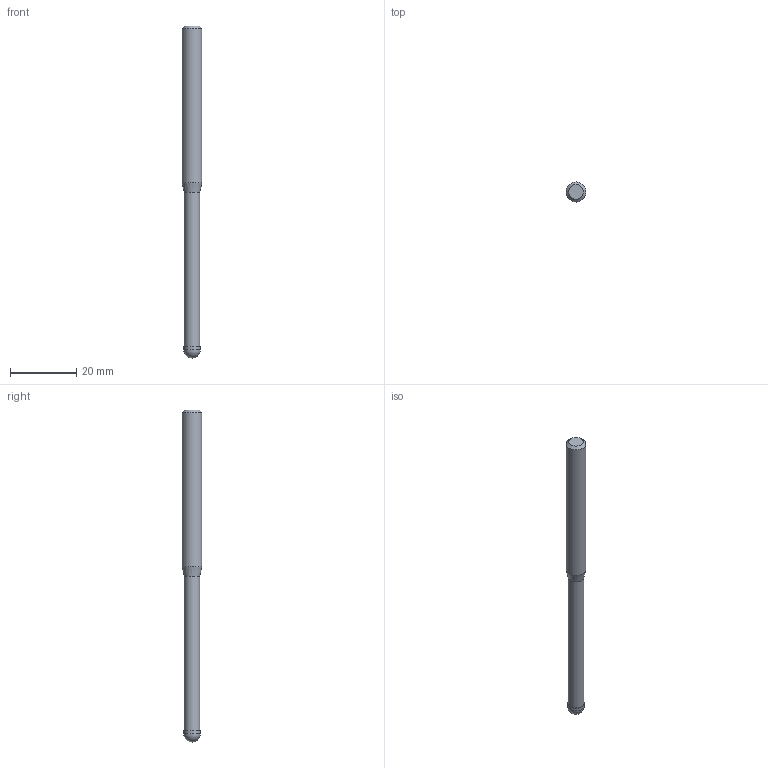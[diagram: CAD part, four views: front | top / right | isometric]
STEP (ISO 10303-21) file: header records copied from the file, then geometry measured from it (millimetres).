
FILE_DESCRIPTION((''),'2;1');
FILE_NAME('C:\Users\nsx150\AppData\Local\Temp\Mastercam 2021\EUJSUNXURU\TEMP.step','2021-04-22T10:23:06',(''),(''),'STEP Write','Mastercam 2021 ... CNC Software, Inc.','');
FILE_SCHEMA(('AUTOMOTIVE_DESIGN'));
Length unit declared in the file: millimetre
Products named in the file (1): None
Bounding box: 6 x 6 x 100 mm (x, y, z)
Volume: 2287.1 mm3; surface area: 1750.7 mm2
Topology: 2 solids, 2 shells, 9 faces, 14 edges, 8 vertices
Faces by surface type: plane 3, cylinder 3, cone 2, sphere 1
Full cylindrical faces by diameter (mm): 4.8 x1, 5 x1, 6 x1
Entity records: 211 total; most frequent: DIRECTION 36, CARTESIAN_POINT 25, AXIS2_PLACEMENT_3D 18, ORIENTED_EDGE 14, EDGE_LOOP 14, STYLED_ITEM 12, ADVANCED_FACE 9, FACE_BOUND 8
